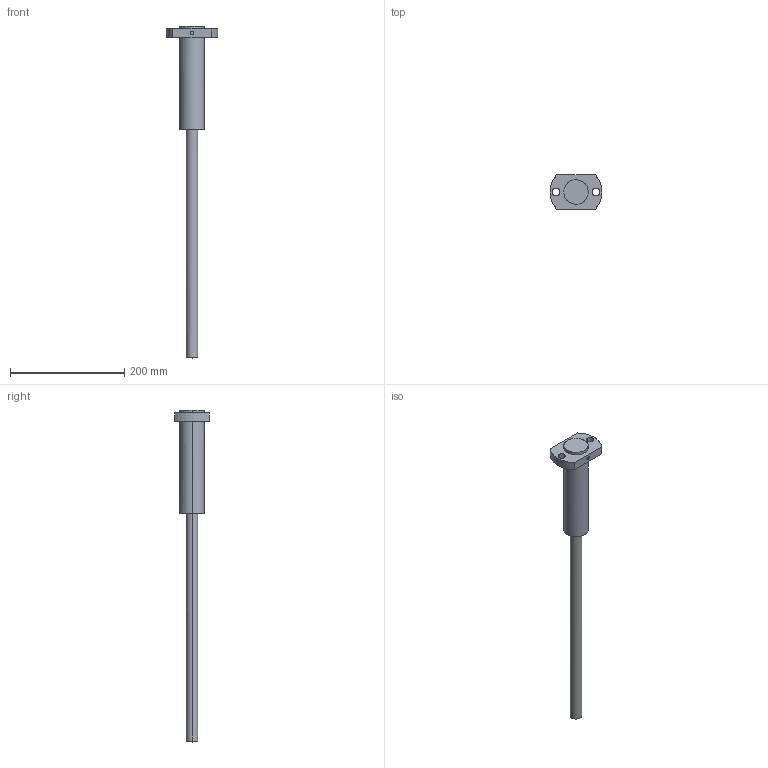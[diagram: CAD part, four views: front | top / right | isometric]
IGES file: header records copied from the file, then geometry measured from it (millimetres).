
Global section: file name: E:\UnigraphicsGraphicData\MISUMI_PRESS-PARTS\IGES\3d_papz20-400-180-160-350_01708_r00.igs; native system: NX V5.0; preprocessor: UGS NX IGES V5.0; author: MISUMI; date: 20110105.162227; units: millimetre
Bounding box: 90 x 60 x 580 mm (x, y, z)
Surface area: 66542 mm2 (no closed solid volume)
Topology: 0 solids, 0 shells, 23 faces, 220 edges, 218 vertices
Faces by surface type: bspline 23
